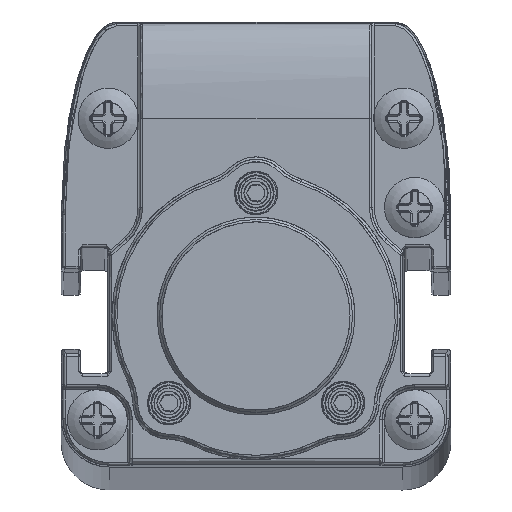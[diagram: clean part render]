
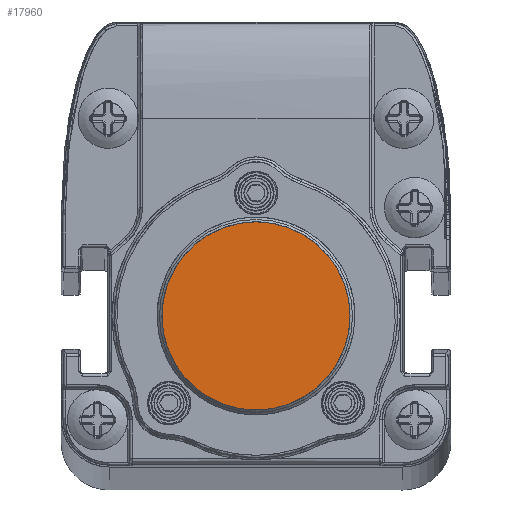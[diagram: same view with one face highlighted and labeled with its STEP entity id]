
A CAD part, top view. The second image highlights one B-rep face of the part: STEP entity #17960.
In plain terms, the highlighted planar face has unit normal (0, 0, 1).
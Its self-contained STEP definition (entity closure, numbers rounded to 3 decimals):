
#15156=B_SPLINE_CURVE_WITH_KNOTS('',3,(#63138,#63139,#63140,#63141,#63142,
#63143,#63144,#63145,#63146,#63147,#63148,#63149,#63150,#63151,#63152,#63153,
#63154,#63155,#63156,#63157,#63158,#63159,#63160,#63161,#63162,#63163,#63164,
#63165,#63166,#63167,#63168,#63169,#63170,#63171,#63172,#63173,#63174,#63175,
#63176,#63177,#63178,#63179,#63180,#63181,#63182,#63183,#63184,#63185,#63186,
#63187,#63188,#63189,#63190,#63191,#63192,#63193,#63194,#63195,#63196,#63197,
#63198,#63199,#63200,#63201,#63202,#63203,#63204,#63205,#63206,#63207,#63208,
#63209,#63210,#63211,#63212,#63213,#63214,#63215,#63216,#63217,#63218,#63219,
#63220,#63221,#63222,#63223,#63224,#63225,#63226,#63227,#63228,#63229,#63230,
#63231,#63232,#63233,#63234,#63235,#63236,#63237,#63238,#63239,#63240),
 .UNSPECIFIED.,.T.,.F.,(1,3,3,3,3,3,3,3,3,3,3,3,3,3,3,3,3,3,3,3,3,3,3,3,
3,3,3,3,3,3,3,3,3,3,3,3,1),(-0.029,0.,0.029,0.059,
0.088,0.118,0.147,0.176,
0.206,0.235,0.265,0.294,
0.324,0.353,0.382,0.412,
0.441,0.471,0.5,0.529,0.559,
0.588,0.618,0.647,0.676,
0.706,0.735,0.765,0.794,
0.824,0.853,0.882,0.912,
0.941,0.971,1.,1.029),.UNSPECIFIED.);
#17960=ADVANCED_FACE('',(#19953),#18858,.T.);
#18858=PLANE('',#43275);
#19953=FACE_OUTER_BOUND('',#21427,.T.);
#21427=EDGE_LOOP('',(#27716));
#27716=ORIENTED_EDGE('',*,*,#36645,.T.);
#31736=VERTEX_POINT('',#63241);
#36645=EDGE_CURVE('',#31736,#31736,#15156,.T.);
#43275=AXIS2_PLACEMENT_3D('',#63242,#47225,#47226);
#47225=DIRECTION('',(0.,0.,1.));
#47226=DIRECTION('',(1.,0.,0.));
#63138=CARTESIAN_POINT('',(7.8,0.,1133.24));
#63139=CARTESIAN_POINT('',(7.8,0.465,1133.24));
#63140=CARTESIAN_POINT('',(7.759,0.925,1133.24));
#63141=CARTESIAN_POINT('',(7.679,1.376,1133.24));
#63142=CARTESIAN_POINT('',(7.638,1.601,1133.24));
#63143=CARTESIAN_POINT('',(7.588,1.825,1133.24));
#63144=CARTESIAN_POINT('',(7.527,2.047,1133.24));
#63145=CARTESIAN_POINT('',(7.466,2.269,1133.24));
#63146=CARTESIAN_POINT('',(7.407,2.458,1133.24));
#63147=CARTESIAN_POINT('',(7.315,2.708,1133.24));
#63148=CARTESIAN_POINT('',(7.129,3.209,1133.24));
#63149=CARTESIAN_POINT('',(6.898,3.683,1133.24));
#63150=CARTESIAN_POINT('',(6.62,4.128,1133.24));
#63151=CARTESIAN_POINT('',(6.343,4.573,1133.24));
#63152=CARTESIAN_POINT('',(6.043,4.965,1133.24));
#63153=CARTESIAN_POINT('',(5.651,5.376,1133.24));
#63154=CARTESIAN_POINT('',(4.868,6.2,1133.24));
#63155=CARTESIAN_POINT('',(3.912,6.837,1133.24));
#63156=CARTESIAN_POINT('',(2.89,7.245,1133.24));
#63157=CARTESIAN_POINT('',(2.378,7.449,1133.24));
#63158=CARTESIAN_POINT('',(1.856,7.597,1133.24));
#63159=CARTESIAN_POINT('',(1.324,7.689,1133.24));
#63160=CARTESIAN_POINT('',(1.058,7.734,1133.24));
#63161=CARTESIAN_POINT('',(0.79,7.766,1133.24));
#63162=CARTESIAN_POINT('',(0.52,7.784,1133.24));
#63163=CARTESIAN_POINT('',(0.249,7.801,1133.24));
#63164=CARTESIAN_POINT('',(-0.055,7.804,1133.24));
#63165=CARTESIAN_POINT('',(-0.3,7.794,1133.24));
#63166=CARTESIAN_POINT('',(-0.79,7.775,1133.24));
#63167=CARTESIAN_POINT('',(-1.271,7.712,1133.24));
#63168=CARTESIAN_POINT('',(-1.742,7.604,1133.24));
#63169=CARTESIAN_POINT('',(-2.213,7.496,1133.24));
#63170=CARTESIAN_POINT('',(-2.713,7.327,1133.24));
#63171=CARTESIAN_POINT('',(-3.123,7.147,1133.24));
#63172=CARTESIAN_POINT('',(-3.534,6.968,1133.24));
#63173=CARTESIAN_POINT('',(-3.924,6.757,1133.24));
#63174=CARTESIAN_POINT('',(-4.293,6.513,1133.24));
#63175=CARTESIAN_POINT('',(-4.477,6.392,1133.24));
#63176=CARTESIAN_POINT('',(-4.656,6.262,1133.24));
#63177=CARTESIAN_POINT('',(-4.83,6.125,1133.24));
#63178=CARTESIAN_POINT('',(-5.004,5.987,1133.24));
#63179=CARTESIAN_POINT('',(-5.15,5.864,1133.24));
#63180=CARTESIAN_POINT('',(-5.337,5.688,1133.24));
#63181=CARTESIAN_POINT('',(-5.712,5.337,1133.24));
#63182=CARTESIAN_POINT('',(-6.047,4.956,1133.24));
#63183=CARTESIAN_POINT('',(-6.341,4.545,1133.24));
#63184=CARTESIAN_POINT('',(-6.635,4.134,1133.24));
#63185=CARTESIAN_POINT('',(-6.869,3.738,1133.24));
#63186=CARTESIAN_POINT('',(-7.102,3.226,1133.24));
#63187=CARTESIAN_POINT('',(-7.567,2.203,1133.24));
#63188=CARTESIAN_POINT('',(-7.8,1.124,1133.24));
#63189=CARTESIAN_POINT('',(-7.8,0.,1133.24));
#63190=CARTESIAN_POINT('',(-7.8,-0.562,1133.24));
#63191=CARTESIAN_POINT('',(-7.742,-1.113,1133.24));
#63192=CARTESIAN_POINT('',(-7.625,-1.651,1133.24));
#63193=CARTESIAN_POINT('',(-7.509,-2.189,1133.24));
#63194=CARTESIAN_POINT('',(-7.314,-2.758,1133.24));
#63195=CARTESIAN_POINT('',(-7.102,-3.226,1133.24));
#63196=CARTESIAN_POINT('',(-6.889,-3.694,1133.24));
#63197=CARTESIAN_POINT('',(-6.636,-4.134,1133.24));
#63198=CARTESIAN_POINT('',(-6.341,-4.544,1133.24));
#63199=CARTESIAN_POINT('',(-6.194,-4.75,1133.24));
#63200=CARTESIAN_POINT('',(-6.037,-4.947,1133.24));
#63201=CARTESIAN_POINT('',(-5.87,-5.138,1133.24));
#63202=CARTESIAN_POINT('',(-5.702,-5.329,1133.24));
#63203=CARTESIAN_POINT('',(-5.5,-5.535,1133.24));
#63204=CARTESIAN_POINT('',(-5.337,-5.688,1133.24));
#63205=CARTESIAN_POINT('',(-5.01,-5.995,1133.24));
#63206=CARTESIAN_POINT('',(-4.662,-6.27,1133.24));
#63207=CARTESIAN_POINT('',(-4.293,-6.513,1133.24));
#63208=CARTESIAN_POINT('',(-3.924,-6.756,1133.24));
#63209=CARTESIAN_POINT('',(-3.573,-6.951,1133.24));
#63210=CARTESIAN_POINT('',(-3.123,-7.147,1133.24));
#63211=CARTESIAN_POINT('',(-2.674,-7.344,1133.24));
#63212=CARTESIAN_POINT('',(-2.213,-7.496,1133.24));
#63213=CARTESIAN_POINT('',(-1.743,-7.604,1133.24));
#63214=CARTESIAN_POINT('',(-1.507,-7.658,1133.24));
#63215=CARTESIAN_POINT('',(-1.27,-7.701,1133.24));
#63216=CARTESIAN_POINT('',(-1.029,-7.732,1133.24));
#63217=CARTESIAN_POINT('',(-0.789,-7.764,1133.24));
#63218=CARTESIAN_POINT('',(-0.575,-7.784,1133.24));
#63219=CARTESIAN_POINT('',(-0.3,-7.794,1133.24));
#63220=CARTESIAN_POINT('',(0.801,-7.837,1133.24));
#63221=CARTESIAN_POINT('',(1.834,-7.666,1133.24));
#63222=CARTESIAN_POINT('',(2.89,-7.245,1133.24));
#63223=CARTESIAN_POINT('',(3.417,-7.035,1133.24));
#63224=CARTESIAN_POINT('',(3.912,-6.774,1133.24));
#63225=CARTESIAN_POINT('',(4.372,-6.462,1133.24));
#63226=CARTESIAN_POINT('',(4.833,-6.15,1133.24));
#63227=CARTESIAN_POINT('',(5.283,-5.763,1133.24));
#63228=CARTESIAN_POINT('',(5.651,-5.376,1133.24));
#63229=CARTESIAN_POINT('',(6.019,-4.989,1133.24));
#63230=CARTESIAN_POINT('',(6.342,-4.573,1133.24));
#63231=CARTESIAN_POINT('',(6.62,-4.128,1133.24));
#63232=CARTESIAN_POINT('',(6.759,-3.906,1133.24));
#63233=CARTESIAN_POINT('',(6.886,-3.676,1133.24));
#63234=CARTESIAN_POINT('',(7.002,-3.44,1133.24));
#63235=CARTESIAN_POINT('',(7.117,-3.203,1133.24));
#63236=CARTESIAN_POINT('',(7.234,-2.926,1133.24));
#63237=CARTESIAN_POINT('',(7.315,-2.708,1133.24));
#63238=CARTESIAN_POINT('',(7.638,-1.835,1133.24));
#63239=CARTESIAN_POINT('',(7.8,-0.933,1133.24));
#63240=CARTESIAN_POINT('',(7.8,0.,1133.24));
#63241=CARTESIAN_POINT('',(7.8,0.,1133.24));
#63242=CARTESIAN_POINT('',(-8.9,-8.81,1133.24));
